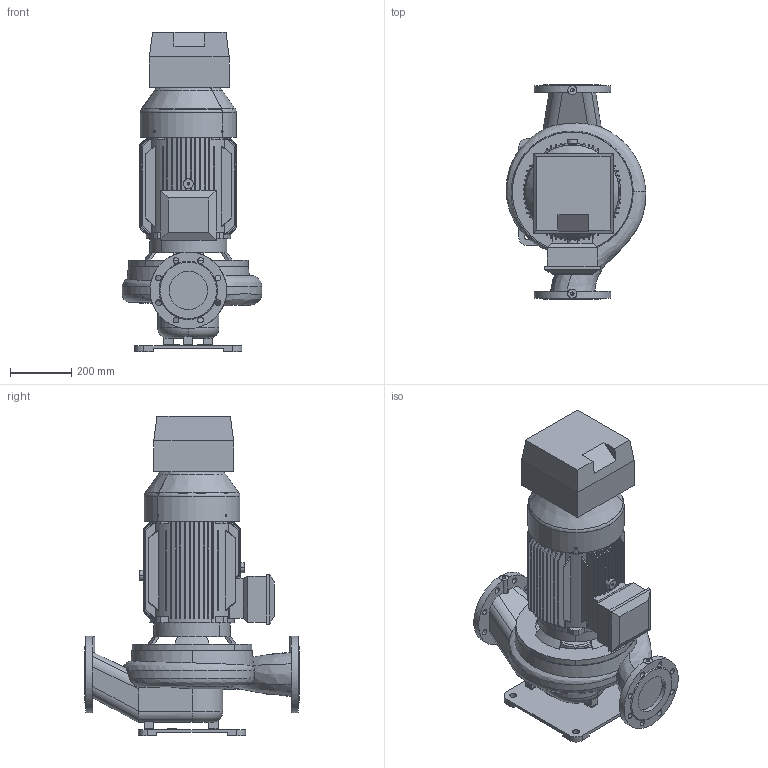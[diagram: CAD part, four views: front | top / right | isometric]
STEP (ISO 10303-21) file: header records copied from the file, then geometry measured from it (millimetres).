
FILE_DESCRIPTION(('STEP AP214'),'1');
FILE_NAME('export.stp','2018-08-08T12:21:47',(' '),(' '),'Spatial InterOp 3D',' ',' ');
FILE_SCHEMA(('AUTOMOTIVE_DESIGN { 1 0 10303 214 1 1 1 1 }'));
Length unit declared in the file: millimetre
Products named in the file (9): W_AL11294NC150KP; V_EKF31OKN164; V_TL110611291154; V_PPAL1129; V_JALKA30940; V_MKP166G2; R200587; R201257; NC_Size2
Assembly tree (8 placements, depth 3):
  W_AL11294NC150KP
    V_EKF31OKN164
    V_TL110611291154
    V_PPAL1129
    V_JALKA30940
    V_MKP166G2
      R200587
      R201257
    NC_Size2
Bounding box: 456.07 x 700 x 1042 mm (x, y, z)
Volume: 48565244.5 mm3; surface area: 3785339.6 mm2
Topology: 7 solids, 7 shells, 1463 faces, 4248 edges, 2808 vertices
Faces by surface type: plane 1147, cylinder 151, cone 134, torus 18, bspline 13
Entity records: 77758 total; most frequent: CARTESIAN_POINT 12549, ORIENTED_EDGE 8476, DIRECTION 7216, STYLED_ITEM 4378, PRESENTATION_STYLE_ASSIGNMENT 4378, COLOUR_RGB 4378, EDGE_CURVE 4238, LINE 3178
